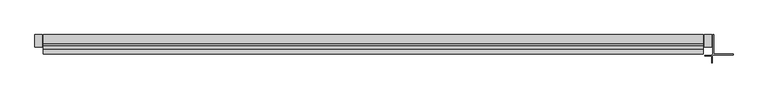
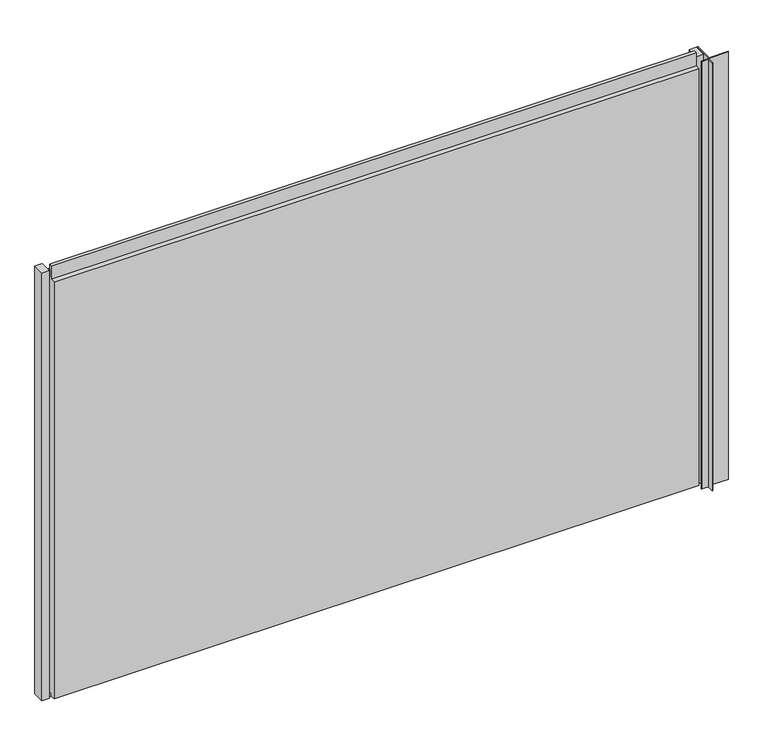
"""IFC4 building model written with IfcOpenShell, lengths in millimetres: plate geometry, Trimo_Qbiss Screen_Normal Panel-HORIZONTAL : HR - B-F."""

import ifcopenshell
import ifcopenshell.guid

model = None  # the IFC model being written
_history = None  # IfcOwnerHistory: only IFC2X3 demands one
_inside = {}  # id of a spatial element -> (the spatial element, [elements in it])
_under = {}  # id of a project, library or spatial element -> (it, [spatial elements below it])
_declared = {}  # id of a project -> (the project, [libraries it declares])
_typed = {}  # id of a type object -> (the type object, [elements of that type])
_made_of = {}  # id of a material, layer set ... -> (it, [elements and type objects made of it])


def new_model(schema):
    """Start an empty IFC model of exactly this schema.

    Asked for "IFC4X3", IfcOpenShell would pick the latest addendum, in which some entities
    have other attributes; the version numbers below select the first issue.
    IFC2X3 requires an IfcOwnerHistory on every rooted entity: one is made here for all.
    """
    global model, _history
    if schema == "IFC4X3":
        model = ifcopenshell.file(schema_version=(4, 3, 0, 0))
    else:
        model = ifcopenshell.file(schema=schema)
    _inside.clear()
    _under.clear()
    _declared.clear()
    _typed.clear()
    _made_of.clear()
    _history = None
    if model.schema == "IFC2X3":
        org = make("IfcOrganization", Name="unknown")
        user = make(
            "IfcPersonAndOrganization",
            ThePerson=make("IfcPerson", FamilyName="unknown"),
            TheOrganization=org,
        )
        app = make(
            "IfcApplication",
            ApplicationDeveloper=org,
            Version="unknown",
            ApplicationFullName="unknown",
            ApplicationIdentifier="unknown",
        )
        _history = make(
            "IfcOwnerHistory",
            OwningUser=user,
            OwningApplication=app,
            ChangeAction="ADDED",
            CreationDate=0,
        )
    return model


def make(cls, **values):
    """One entity of the class cls with the attributes given. An attribute that is None is left unset."""
    return model.create_entity(
        cls, **{name: value for name, value in values.items() if value is not None}
    )


def rooted(cls, **values):
    """An entity with a GlobalId (a new one), such as an element, a storey or a relation."""
    return make(cls, GlobalId=ifcopenshell.guid.new(), OwnerHistory=_history, **values)


def si_unit(unit_type, name, prefix=None):
    """IfcSIUnit, for example si_unit("LENGTHUNIT", "METRE", prefix="MILLI")."""
    return make("IfcSIUnit", UnitType=unit_type, Prefix=prefix, Name=name)


def assignment(units):
    """IfcUnitAssignment: the units of a project."""
    return None if units is None else make("IfcUnitAssignment", Units=units)


def point(xyz):
    """IfcCartesianPoint."""
    return None if xyz is None else make("IfcCartesianPoint", Coordinates=xyz)


def direction(xyz):
    """IfcDirection."""
    return None if xyz is None else make("IfcDirection", DirectionRatios=xyz)


def frame(location, z_axis=None, x_axis=None):
    """IfcAxis2Placement3D, a coordinate frame: its origin and axes. An axis left out is left unset."""
    return make(
        "IfcAxis2Placement3D",
        Location=point(location),
        Axis=direction(z_axis),
        RefDirection=direction(x_axis),
    )


def origin():
    """The frame at (0, 0, 0) with its axes left unset."""
    return frame((0.0, 0.0, 0.0))


def place(relative_to, where):
    """IfcLocalPlacement: puts the frame where relative to a parent placement (None: the world)."""
    return make(
        "IfcLocalPlacement", PlacementRelTo=relative_to, RelativePlacement=where
    )


def context(
    kind, dimensions, precision=None, world=None, true_north=None, identifier=None
):
    """IfcGeometricRepresentationContext, for example the 3D "Model" context."""
    return make(
        "IfcGeometricRepresentationContext",
        ContextIdentifier=identifier,
        ContextType=kind,
        CoordinateSpaceDimension=dimensions,
        Precision=precision,
        WorldCoordinateSystem=world,
        TrueNorth=true_north,
    )


def project(units=None, contexts=None):
    """IfcProject with its units and contexts."""
    return rooted(
        "IfcProject",
        Name="project",
        RepresentationContexts=contexts,
        UnitsInContext=assignment(units),
    )


def spatial(cls, under=None, at=None, **own):
    """A site, building, storey or space (cls), placed at a placement, below another one or the project."""
    s = rooted(cls, ObjectPlacement=at, **own)
    if under is not None:
        _under.setdefault(under.id(), (under, []))[1].append(s)
    return s


def polyline(points):
    """IfcPolyline through the points."""
    return make("IfcPolyline", Points=[point(p) for p in points])


def outline(outer, holes=None, kind="AREA"):
    """IfcArbitraryClosedProfileDef: a profile drawn as a closed curve; with holes, ...WithVoids."""
    if holes is None:
        return make("IfcArbitraryClosedProfileDef", ProfileType=kind, OuterCurve=outer)
    return make(
        "IfcArbitraryProfileDefWithVoids",
        ProfileType=kind,
        OuterCurve=outer,
        InnerCurves=holes,
    )


def extrude(swept, where, along, depth):
    """IfcExtrudedAreaSolid: the profile swept, set in the frame where, extruded along a direction by depth."""
    return make(
        "IfcExtrudedAreaSolid",
        SweptArea=swept,
        Position=where,
        ExtrudedDirection=direction(along),
        Depth=depth,
    )


def shape(context_of_items, identifier, shape_type, items):
    """IfcShapeRepresentation: the items that make up one representation, for example the "Body"."""
    return make(
        "IfcShapeRepresentation",
        ContextOfItems=context_of_items,
        RepresentationIdentifier=identifier,
        RepresentationType=shape_type,
        Items=items,
    )


def source(mapping_origin, context_of_items, identifier, shape_type, items):
    """IfcRepresentationMap: a shape defined once, which mapped items show again and again."""
    return make(
        "IfcRepresentationMap",
        MappingOrigin=mapping_origin,
        MappedRepresentation=shape(context_of_items, identifier, shape_type, items),
    )


def transform(
    local_origin,
    x_axis=None,
    y_axis=None,
    z_axis=None,
    scale=None,
    scale2=None,
    scale3=None,
    uniform=True,
):
    """IfcCartesianTransformationOperator3D, or its non-uniform kind. x_axis, y_axis, z_axis: its Axis1, 2, 3."""
    if uniform:
        return make(
            "IfcCartesianTransformationOperator3D",
            Axis1=direction(x_axis),
            Axis2=direction(y_axis),
            LocalOrigin=point(local_origin),
            Scale=scale,
            Axis3=direction(z_axis),
        )
    return make(
        "IfcCartesianTransformationOperator3DnonUniform",
        Axis1=direction(x_axis),
        Axis2=direction(y_axis),
        LocalOrigin=point(local_origin),
        Scale=scale,
        Axis3=direction(z_axis),
        Scale2=scale2,
        Scale3=scale3,
    )


def mapped(mapping_source, mapping_target):
    """IfcMappedItem: shows the shape of a source again, moved by a transform."""
    return make(
        "IfcMappedItem", MappingSource=mapping_source, MappingTarget=mapping_target
    )


def made_of(thing, what):
    """Note that an element or type object is made of a material, layer set ...; save() writes the relation."""
    if what is not None:
        _made_of.setdefault(what.id(), (what, []))[1].append(thing)
    return thing


def element(
    cls,
    number,
    at=None,
    inside=None,
    cuts=None,
    type_object=None,
    material=None,
    context=None,
    identifier="Body",
    shape_type=None,
    held_by="IfcProductDefinitionShape",
    body=None,
    shapes=None,
    **own,
):
    """One element of the class cls, such as IfcWall. Its Tag is "e" and its number.

    at: its placement. inside: the storey or other place that contains it. cuts: it is an
    opening in that element (IfcRelVoidsElement). A single representation is given by context,
    identifier, shape_type and body (its items); several are given by shapes. held_by: the class
    of the entity that holds the representations. save() writes the other relations.
    """
    e = rooted(cls, Tag="e%d" % number, ObjectPlacement=at, **own)
    if body is not None:
        shapes = [shape(context, identifier, shape_type, body)]
    if shapes is not None:
        e.Representation = make(held_by, Representations=shapes)
    if inside is not None:
        _inside.setdefault(inside.id(), (inside, []))[1].append(e)
    if cuts is not None:
        rooted(
            "IfcRelVoidsElement", RelatingBuildingElement=cuts, RelatedOpeningElement=e
        )
    if type_object is not None:
        _typed.setdefault(type_object.id(), (type_object, []))[1].append(e)
    return made_of(e, material)


def aggregate(whole, parts):
    """IfcRelAggregates: a whole, such as a stair, and the parts it consists of."""
    return rooted("IfcRelAggregates", RelatingObject=whole, RelatedObjects=parts)


def save(model, path):
    """Write the relations noted so far, then the file.

    IfcRelAggregates (storeys below a building ...), IfcRelContainedInSpatialStructure (elements
    in a storey), IfcRelDefinesByType, IfcRelAssociatesMaterial and IfcRelDeclares: one each for
    every whole, place, type object, material and project.
    """
    for whole, parts in _under.values():
        aggregate(whole, parts)
    for where, things in _inside.values():
        rooted(
            "IfcRelContainedInSpatialStructure",
            RelatedElements=things,
            RelatingStructure=where,
        )
    for kind, things in _typed.values():
        rooted("IfcRelDefinesByType", RelatedObjects=things, RelatingType=kind)
    for what, things in _made_of.values():
        rooted("IfcRelAssociatesMaterial", RelatedObjects=things, RelatingMaterial=what)
    for by, libraries in _declared.values():
        rooted("IfcRelDeclares", RelatingContext=by, RelatedDefinitions=libraries)
    model.write(path)


def plate_784343d8(model_context):
    return source(origin(), model_context, "Body", "SweptSolid", [
        extrude(outline(polyline([(-840.5, 67.8978162), (-859.5, 67.8978162), (-859.5, 100.0), (-840.5, 100.0), (-840.5, 67.8978162)])), frame((0.0, 0.0, -1.0), z_axis=(0.0, 0.0, 1.0), x_axis=(1.0, 0.0, 0.0)), (0.0, 0.0, 1.0), 1200.0),
        extrude(outline(polyline([(895.0, 67.8978162), (876.0, 67.8978162), (876.0, 100.0), (895.0, 100.0), (895.0, 67.8978162)])), frame((0.0, 0.0, -1.0), z_axis=(0.0, 0.0, 1.0), x_axis=(1.0, 0.0, 0.0)), (0.0, 0.0, 1.0), 1200.0),
        extrude(outline(polyline([(873.0, 76.0), (873.0, 71.0), (-837.5, 71.0), (-837.5, 76.0), (873.0, 76.0)])), frame((0.0, 0.0, 1178.0), z_axis=(0.0, 0.0, 1.0), x_axis=(1.0, 0.0, 0.0)), (0.0, 0.0, 1.0), 21.0),
        extrude(outline(polyline([(71.0, 1177.0), (100.0, 1177.0), (100.0, 0.0), (72.0, 0.0), (72.0, 15.5), (62.0, 15.5), (62.0, 7.0), (50.0, 7.0), (50.0, 1177.0), (63.0, 1177.0), (63.0, 1214.5), (71.0, 1214.5), (71.0, 1177.0)])), frame((-837.5, 0.0, 0.0), z_axis=(1.0, 0.0, 0.0), x_axis=(0.0, 1.0, 0.0)), (0.0, 0.0, 1.0), 1710.5),
        extrude(outline(polyline([(898.0, 100.0), (900.0, 100.0), (900.0, 49.8183206), (950.2, 49.8183206), (950.2, 47.8183206), (899.4142136, 47.8183206), (896.6823429, 45.0864499), (896.6823429, 26.5864499), (894.6823429, 26.5864499), (894.6823429, 44.5006635), (876.7681293, 44.5006635), (876.7681293, 46.5006635), (895.2681293, 46.5006635), (898.0, 49.2325342), (898.0, 100.0)])), frame((0.0, 0.0, -1.0), z_axis=(0.0, 0.0, 1.0), x_axis=(1.0, 0.0, 0.0)), (0.0, 0.0, 1.0), 1200.0),
    ])


if __name__ == "__main__":
    model = new_model("IFC4")
    model_context = context("Model", 3, world=origin())
    ifc_project = project(units=[si_unit("LENGTHUNIT", "METRE", prefix="MILLI")], contexts=[model_context])
    site = spatial("IfcSite", under=ifc_project)
    building = spatial("IfcBuilding", under=site)
    placement = place(None, origin())
    plate_shape = plate_784343d8(model_context)
    element("IfcPlate", 1, ObjectType="Trimo_Qbiss Screen_Normal Panel-HORIZONTAL : HR - B-F", at=placement, inside=building, context=model_context, shape_type="MappedRepresentation", body=[
        mapped(plate_shape, transform((0.0, 0.0, 0.0), x_axis=(1.0, 0.0, 0.0), y_axis=(0.0, 1.0, 0.0), z_axis=(0.0, 0.0, 1.0))),
    ])
    save(model, "model.ifc")
